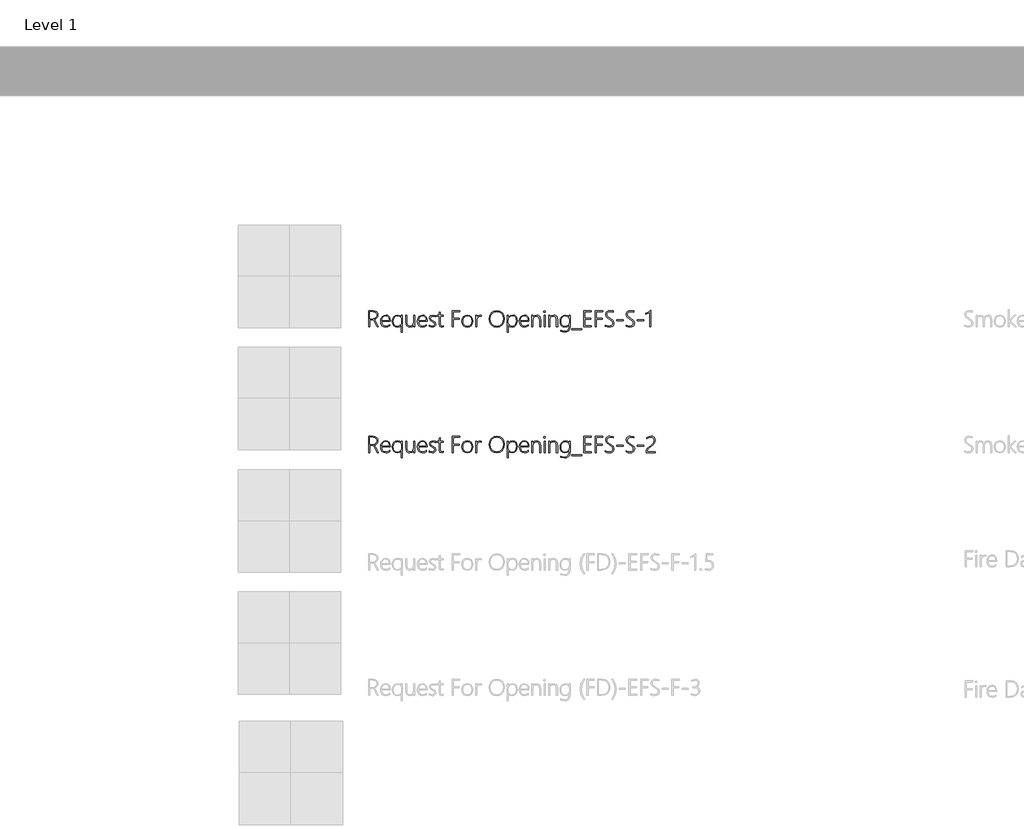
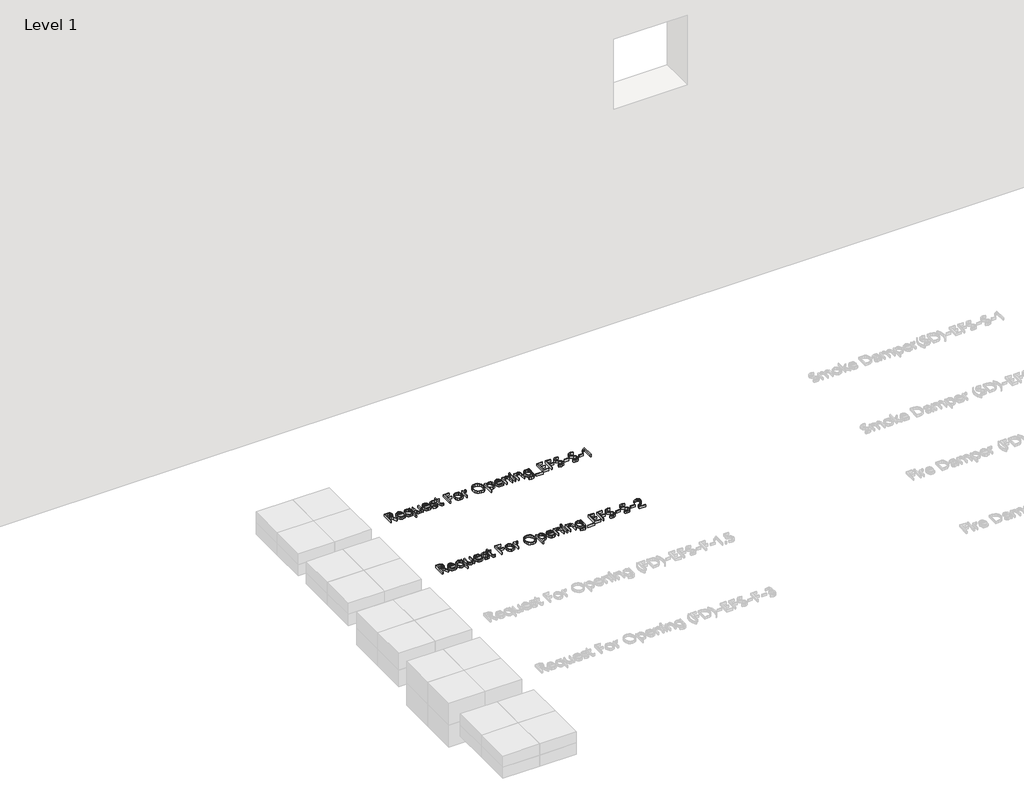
# One storey, part 12 of 13: 2 proxies.
"""IFC4 building model written with IfcOpenShell, lengths in millimetres."""

from ifc_helpers import new_model, si_unit, origin, origin_with_axes, place, context, project, spatial, polyline, outline, extrude, element, save

model = new_model("IFC4")

# Units and contexts
model_context = context("Model", 3, world=origin())
ifc_project = project(units=[si_unit("LENGTHUNIT", "METRE", prefix="MILLI")], contexts=[model_context])

# Site, building, storey
site = spatial("IfcSite", under=ifc_project)
building = spatial("IfcBuilding", under=site)
storey = spatial("IfcBuildingStorey", under=building, Name="Level 1", Elevation=0.0)

# Proxies
placement = place(None, origin())
element("IfcBuildingElementProxy", 1, Name="24\" Arial", ObjectType="24\" Arial", at=placement, inside=storey, context=model_context, shape_type="SweptSolid", body=[
    extrude(outline(polyline([(-15088.6743908, 9244.4686024), (-15102.0044774, 9273.7471854), (-15110.2316402, 9285.9317177), (-15120.5713837, 9289.0410794), (-15132.9790759, 9289.0410794), (-15132.9790759, 9244.4686024), (-15139.8821565, 9244.4686024), (-15139.8821565, 9344.4740064), (-15112.121061, 9344.4740064), (-15100.2973039, 9342.6850076), (-15091.307678, 9337.3180113), (-15085.6282578, 9329.0276198), (-15083.7351177, 9318.4684357), (-15085.2860792, 9308.5340994), (-15089.9389638, 9300.3924812), (-15097.3813475, 9294.4378304), (-15107.3008065, 9291.0643961), (-15095.7262447, 9276.3358406), (-15080.8786706, 9244.4686024), (-15088.6743908, 9244.4686024)]), holes=[polyline([(-15132.9790759, 9338.1362643), (-15132.9790759, 9295.3193121), (-15115.7511292, 9295.3193121), (-15105.4783337, 9296.818203), (-15097.5710334, 9301.3148756), (-15092.527619, 9308.4225194), (-15090.8464808, 9317.7543239), (-15092.3639684, 9326.2715946), (-15096.916431, 9332.7209167), (-15104.2955861, 9336.7824274), (-15114.293151, 9338.1362643), (-15132.9790759, 9338.1362643)])]), origin_with_axes(), (0.0, 0.0, 1.0), 20.0),
    extrude(outline(polyline([(-15059.7528637, 9279.9063995), (-15058.0531289, 9266.7845955), (-15052.9539245, 9256.8762946), (-15044.8941316, 9250.6501325), (-15034.3126315, 9248.5747451), (-15022.4405231, 9250.7914671), (-15010.8659614, 9257.4416331), (-15010.8659614, 9250.5980618), (-15022.6041738, 9244.6843237), (-15035.6218364, 9242.7130776), (-15048.1039153, 9245.1901528), (-15057.9378296, 9252.6213786), (-15064.3202036, 9264.5678736), (-15066.4476617, 9280.5907566), (-15064.223501, 9294.9845722), (-15057.551019, 9306.9236286), (-15047.3228555, 9314.9573861), (-15034.4316501, 9317.6353053), (-15022.6748411, 9315.2958453), (-15014.0050777, 9308.2774655), (-15008.6603974, 9297.2198909), (-15006.8788373, 9282.7628466), (-15006.8788373, 9279.9063995), (-15059.7528637, 9279.9063995)]), holes=[polyline([(-15013.5736352, 9285.7680671), (-15015.284528, 9296.717781), (-15019.5245667, 9304.9300665), (-15026.07803, 9310.0627449), (-15034.7291967, 9311.7736377), (-15043.8973506, 9310.0887803), (-15051.347173, 9305.0342078), (-15056.676976, 9296.8479577), (-15059.4850718, 9285.7680671), (-15013.5736352, 9285.7680671)])]), origin_with_axes(), (0.0, 0.0, 1.0), 20.0),
    extrude(outline(polyline([(-14938.2348423, 9211.6194605), (-14938.2348423, 9257.5904064), (-14948.946519, 9246.4324098), (-14964.3891863, 9242.7130776), (-14976.4695772, 9245.1715562), (-14985.9315583, 9252.5469919), (-14992.0461405, 9264.0955184), (-14994.0843345, 9279.0732691), (-14991.7671906, 9294.9957302), (-14984.8157587, 9307.2360525), (-14974.2863292, 9315.0354921), (-14961.2351926, 9317.6353053), (-14947.5629274, 9314.3027836), (-14938.5026342, 9304.3052187), (-14938.2348423, 9315.8797805), (-14931.8078363, 9315.8797805), (-14931.8078363, 9211.6194605), (-14938.2348423, 9211.6194605)]), holes=[polyline([(-14938.2348423, 9287.2855546), (-14939.7858038, 9297.0227663), (-14944.4386884, 9304.8705572), (-14951.8438788, 9310.0478676), (-14961.6517578, 9311.7736377), (-14971.8055347, 9309.6387411), (-14980.0698908, 9303.234051), (-14985.5596251, 9292.9910102), (-14987.3895366, 9279.341061), (-14985.7604691, 9266.5130843), (-14980.8732666, 9256.7721533), (-14973.3899702, 9250.6240972), (-14963.9726211, 9248.5747451), (-14952.9448011, 9250.4939205), (-14944.8552536, 9256.2514468), (-14939.8899451, 9264.7835948), (-14938.2348423, 9275.0266357), (-14938.2348423, 9287.2855546)])]), origin_with_axes(), (0.0, 0.0, 1.0), 20.0),
    extrude(outline(polyline([(-14861.7951271, 9244.4686024), (-14861.7951271, 9257.4416331), (-14871.5620934, 9246.3952165), (-14885.0930239, 9242.7130776), (-14896.1710549, 9244.7066396), (-14904.0839341, 9250.6873258), (-14908.8316616, 9260.6551361), (-14910.4142375, 9274.6100705), (-14910.4142375, 9315.8797805), (-14903.9277221, 9315.8797805), (-14903.9277221, 9276.1870673), (-14902.7338165, 9263.6789532), (-14899.1520996, 9255.1356471), (-14893.0040435, 9250.2149706), (-14884.1111202, 9248.5747451), (-14875.0917397, 9250.4046566), (-14867.9692185, 9255.8943909), (-14863.3386499, 9264.4414163), (-14861.7951271, 9275.4432009), (-14861.7951271, 9315.8797805), (-14855.3978757, 9315.8797805), (-14855.3978757, 9244.4686024), (-14861.7951271, 9244.4686024)])), origin_with_axes(), (0.0, 0.0, 1.0), 20.0),
    extrude(outline(polyline([(-14831.2370938, 9279.9063995), (-14829.537359, 9266.7845955), (-14824.4381545, 9256.8762946), (-14816.3783617, 9250.6501325), (-14805.7968616, 9248.5747451), (-14793.9247532, 9250.7914671), (-14782.3501914, 9257.4416331), (-14782.3501914, 9250.5980618), (-14794.0884038, 9244.6843237), (-14807.1060665, 9242.7130776), (-14819.5881453, 9245.1901528), (-14829.4220597, 9252.6213786), (-14835.8044337, 9264.5678736), (-14837.9318917, 9280.5907566), (-14835.7077311, 9294.9845722), (-14829.0352491, 9306.9236286), (-14818.8070856, 9314.9573861), (-14805.9158802, 9317.6353053), (-14794.1590711, 9315.2958453), (-14785.4893078, 9308.2774655), (-14780.1446274, 9297.2198909), (-14778.3630673, 9282.7628466), (-14778.3630673, 9279.9063995), (-14831.2370938, 9279.9063995)]), holes=[polyline([(-14785.0578653, 9285.7680671), (-14786.7687581, 9296.717781), (-14791.0087968, 9304.9300665), (-14797.5622601, 9310.0627449), (-14806.2134268, 9311.7736377), (-14815.3815806, 9310.0887803), (-14822.831403, 9305.0342078), (-14828.161206, 9296.8479577), (-14830.9693018, 9285.7680671), (-14785.0578653, 9285.7680671)])]), origin_with_axes(), (0.0, 0.0, 1.0), 20.0),
    extrude(outline(polyline([(-14764.1105863, 9247.5928414), (-14764.1105863, 9255.358807), (-14755.318085, 9250.3897792), (-14746.4065651, 9248.5747451), (-14733.798029, 9252.0114081), (-14729.5951836, 9262.3213969), (-14733.2847611, 9270.3997864), (-14745.2758881, 9277.3177443), (-14759.6771424, 9286.5565655), (-14763.8130398, 9298.1757593), (-14762.1504983, 9306.0570242), (-14757.1628738, 9312.2645896), (-14740.7531802, 9317.6353053), (-14724.9832117, 9313.8564638), (-14724.9832117, 9306.5963273), (-14741.4375373, 9311.7736377), (-14752.8038165, 9308.1138149), (-14757.1182418, 9298.5923245), (-14754.410568, 9290.3205297), (-14742.419441, 9283.0306386), (-14727.080915, 9273.7174307), (-14722.9003856, 9262.3213969), (-14724.4959792, 9254.551712), (-14729.2827597, 9248.2623212), (-14736.8739167, 9244.1003885), (-14746.8826396, 9242.7130776), (-14764.1105863, 9247.5928414)])), origin_with_axes(), (0.0, 0.0, 1.0), 20.0),
    extrude(outline(polyline([(-14676.9294397, 9245.4505061), (-14686.3616662, 9243.0701335), (-14698.2337745, 9247.8160014), (-14702.191144, 9262.053605), (-14702.191144, 9310.018113), (-14715.0154014, 9310.018113), (-14715.0154014, 9315.8797805), (-14702.191144, 9315.8797805), (-14702.191144, 9334.4169321), (-14698.977641, 9335.5476091), (-14695.764138, 9336.5890221), (-14695.764138, 9315.8797805), (-14676.9294397, 9315.8797805), (-14676.9294397, 9310.018113), (-14695.764138, 9310.018113), (-14695.764138, 9262.8867354), (-14693.4283973, 9252.1750587), (-14685.5285358, 9248.8722917), (-14676.9294397, 9251.4311922), (-14676.9294397, 9245.4505061)])), origin_with_axes(), (0.0, 0.0, 1.0), 20.0),
    extrude(outline(polyline([(-14615.0099974, 9338.1362643), (-14615.0099974, 9297.3426288), (-14578.0547127, 9297.3426288), (-14578.0547127, 9291.0643961), (-14615.0099974, 9291.0643961), (-14615.0099974, 9244.4686024), (-14621.9130779, 9244.4686024), (-14621.9130779, 9344.4740064), (-14575.1685109, 9344.4740064), (-14575.1685109, 9338.1362643), (-14615.0099974, 9338.1362643)])), origin_with_axes(), (0.0, 0.0, 1.0), 20.0),
    extrude(outline(polyline([(-14527.9776241, 9242.7130776), (-14541.9697518, 9245.2868555), (-14552.7037445, 9253.0081891), (-14559.5324384, 9264.8431041), (-14561.8086697, 9279.7576262), (-14559.4282971, 9295.6131394), (-14552.2871793, 9307.5931084), (-14541.2630787, 9315.1247561), (-14527.2337576, 9317.6353053), (-14513.5503345, 9315.1396334), (-14503.087853, 9307.6526177), (-14496.4488451, 9295.754474), (-14494.2358424, 9280.0254181), (-14496.4934771, 9264.9472454), (-14503.266381, 9253.0379438), (-14513.959461, 9245.2942941), (-14527.9776241, 9242.7130776)]), holes=[polyline([(-14527.5015495, 9311.7736377), (-14538.8380741, 9309.6461797), (-14547.615698, 9303.2638057), (-14553.2393283, 9293.0951515), (-14555.1138717, 9279.6088529), (-14553.2839603, 9266.9705622), (-14547.794226, 9257.0845772), (-14539.128182, 9250.7022031), (-14527.7693415, 9248.5747451), (-14516.3621496, 9250.6687291), (-14507.9081076, 9256.9506812), (-14502.6750072, 9266.9445268), (-14500.9306404, 9280.1741914), (-14502.6638492, 9293.6642093), (-14507.8634756, 9303.6059843), (-14516.2394117, 9309.7317244), (-14527.5015495, 9311.7736377)])]), origin_with_axes(), (0.0, 0.0, 1.0), 20.0),
    extrude(outline(polyline([(-14442.9983221, 9309.1849825), (-14450.5262505, 9311.4760912), (-14458.2736194, 9309.2965625), (-14464.6745901, 9302.7579765), (-14468.9704188, 9292.2099504), (-14470.4023617, 9278.0021014), (-14470.4023617, 9244.4686024), (-14476.6805945, 9244.4686024), (-14476.6805945, 9315.8797805), (-14470.4023617, 9315.8797805), (-14470.4023617, 9300.0503027), (-14462.3686042, 9312.7406641), (-14450.1096853, 9317.2782494), (-14442.9983221, 9316.0285538), (-14442.9983221, 9309.1849825)])), origin_with_axes(), (0.0, 0.0, 1.0), 20.0),
    extrude(outline(polyline([(-14346.5337224, 9242.7130776), (-14365.5729839, 9246.2352852), (-14380.320136, 9256.8019079), (-14389.7709591, 9272.9995996), (-14392.9212335, 9293.415014), (-14389.6854145, 9314.9573861), (-14379.9779574, 9331.739013), (-14364.6766248, 9342.5399537), (-14344.6591789, 9346.1402672), (-14326.3563452, 9342.6812883), (-14311.9141783, 9332.3043515), (-14302.5303032, 9316.311223), (-14299.4023448, 9296.0036693), (-14302.6084092, 9273.83273), (-14312.2266022, 9256.9506812), (-14327.2155109, 9246.2724785), (-14346.5337224, 9242.7130776)]), holes=[polyline([(-14345.8196106, 9339.8620345), (-14361.712317, 9336.7080408), (-14374.5179778, 9327.2460597), (-14382.9645812, 9312.6737161), (-14385.7801157, 9294.1886351), (-14383.1133545, 9275.6440448), (-14375.1130709, 9261.3097386), (-14362.6719047, 9252.1378654), (-14346.6824956, 9249.0805743), (-14330.0570807, 9252.1043914), (-14317.3146486, 9261.1758426), (-14309.2139431, 9275.6552028), (-14306.513708, 9294.9027469), (-14309.1544338, 9313.7634805), (-14317.0766114, 9327.9750488), (-14329.5438129, 9336.890288), (-14345.8196106, 9339.8620345)])]), origin_with_axes(), (0.0, 0.0, 1.0), 20.0),
    extrude(outline(polyline([(-14273.843094, 9257.1738412), (-14274.1108859, 9211.6194605), (-14280.5378919, 9211.6194605), (-14280.5378919, 9315.8797805), (-14274.1108859, 9315.8797805), (-14274.1108859, 9301.151225), (-14262.848748, 9313.3357573), (-14247.1234115, 9317.6353053), (-14235.0169852, 9315.2884067), (-14225.8934633, 9308.2477108), (-14220.1694111, 9297.1826976), (-14218.2613937, 9282.7628466), (-14220.448361, 9266.5428389), (-14227.009263, 9253.7669329), (-14237.1630399, 9245.4765414), (-14250.1286319, 9242.7130776), (-14264.0761276, 9246.3282685), (-14273.843094, 9257.1738412)]), holes=[polyline([(-14274.1108859, 9283.7447503), (-14274.1108859, 9274.7290891), (-14272.4185897, 9264.7464015), (-14267.3417013, 9256.2812014), (-14259.512507, 9250.5013592), (-14249.5632934, 9248.5747451), (-14239.6438345, 9250.9216437), (-14231.7848855, 9257.9623396), (-14226.6633651, 9268.8190703), (-14224.9561916, 9282.6140734), (-14226.5257498, 9294.6275163), (-14231.2344244, 9303.8886535), (-14238.5540701, 9309.8023917), (-14247.9565419, 9311.7736377), (-14259.0364325, 9309.6796537), (-14267.282192, 9303.3977017), (-14272.4037124, 9294.2964958), (-14274.1108859, 9283.7447503)])]), origin_with_axes(), (0.0, 0.0, 1.0), 20.0),
    extrude(outline(polyline([(-14199.0101303, 9279.9063995), (-14197.3103954, 9266.7845955), (-14192.211191, 9256.8762946), (-14184.1513981, 9250.6501325), (-14173.5698981, 9248.5747451), (-14161.6977897, 9250.7914671), (-14150.1232279, 9257.4416331), (-14150.1232279, 9250.5980618), (-14161.8614403, 9244.6843237), (-14174.879103, 9242.7130776), (-14187.3611818, 9245.1901528), (-14197.1950961, 9252.6213786), (-14203.5774702, 9264.5678736), (-14205.7049282, 9280.5907566), (-14203.4807675, 9294.9845722), (-14196.8082856, 9306.9236286), (-14186.5801221, 9314.9573861), (-14173.6889167, 9317.6353053), (-14161.9321076, 9315.2958453), (-14153.2623443, 9308.2774655), (-14147.9176639, 9297.2198909), (-14146.1361038, 9282.7628466), (-14146.1361038, 9279.9063995), (-14199.0101303, 9279.9063995)]), holes=[polyline([(-14152.8309017, 9285.7680671), (-14154.5417946, 9296.717781), (-14158.7818333, 9304.9300665), (-14165.3352966, 9310.0627449), (-14173.9864633, 9311.7736377), (-14183.1546171, 9310.0887803), (-14190.6044395, 9305.0342078), (-14195.9342425, 9296.8479577), (-14198.7423383, 9285.7680671), (-14152.8309017, 9285.7680671)])]), origin_with_axes(), (0.0, 0.0, 1.0), 20.0),
    extrude(outline(polyline([(-14079.6344442, 9244.4686024), (-14079.6344442, 9286.035859), (-14084.2761708, 9305.3391931), (-14090.078329, 9310.1650266), (-14098.2013505, 9311.7736377), (-14107.6001029, 9309.8804977), (-14115.146628, 9304.2010774), (-14120.1119364, 9295.732158), (-14121.7670393, 9285.4705205), (-14121.7670393, 9244.4686024), (-14128.1940453, 9244.4686024), (-14128.1940453, 9315.8797805), (-14121.7670393, 9315.8797805), (-14121.7670393, 9302.9067498), (-14111.4793664, 9313.9531664), (-14097.0706735, 9317.6353053), (-14086.8573873, 9315.7086912), (-14079.3666523, 9309.928849), (-14074.7695577, 9300.5710092), (-14073.2371928, 9287.9104024), (-14073.2371928, 9244.4686024), (-14079.6344442, 9244.4686024)])), origin_with_axes(), (0.0, 0.0, 1.0), 20.0),
    extrude(outline(polyline([(-14048.8681283, 9333.8813483), (-14052.5577058, 9335.4137132), (-14054.1644573, 9339.3264506), (-14052.5279512, 9343.0457828), (-14048.8681283, 9344.4740064), (-14045.0595321, 9343.0755375), (-14043.4230259, 9339.3264506), (-14045.0297775, 9335.4880998), (-14048.8681283, 9333.8813483)])), origin_with_axes(), (0.0, 0.0, 1.0), 20.0),
    extrude(outline(polyline([(-14052.022122, 9244.4686024), (-14052.022122, 9315.8797805), (-14045.595116, 9315.8797805), (-14045.595116, 9244.4686024), (-14052.022122, 9244.4686024)])), origin_with_axes(), (0.0, 0.0, 1.0), 20.0),
    extrude(outline(polyline([(-13974.8980496, 9244.4686024), (-13974.8980496, 9286.035859), (-13979.5397762, 9305.3391931), (-13985.3419344, 9310.1650266), (-13993.4649559, 9311.7736377), (-14002.8637084, 9309.8804977), (-14010.4102334, 9304.2010774), (-14015.3755419, 9295.732158), (-14017.0306447, 9285.4705205), (-14017.0306447, 9244.4686024), (-14023.4576507, 9244.4686024), (-14023.4576507, 9315.8797805), (-14017.0306447, 9315.8797805), (-14017.0306447, 9302.9067498), (-14006.7429719, 9313.9531664), (-13992.3342789, 9317.6353053), (-13982.1209927, 9315.7086912), (-13974.6302577, 9309.928849), (-13970.0331631, 9300.5710092), (-13968.5007983, 9287.9104024), (-13968.5007983, 9244.4686024), (-13974.8980496, 9244.4686024)])), origin_with_axes(), (0.0, 0.0, 1.0), 20.0),
    extrude(outline(polyline([(-13890.1567849, 9249.7649314), (-13892.3549103, 9232.3212634), (-13898.9492862, 9220.2780658), (-13910.1779501, 9213.2708439), (-13926.2789392, 9210.9351033), (-13947.5535193, 9216.350451), (-13947.5535193, 9223.045249), (-13926.1301659, 9216.7967709), (-13913.2036269, 9218.7494203), (-13903.9703847, 9224.6073685), (-13898.4304394, 9234.3706155), (-13896.583791, 9248.0391613), (-13896.583791, 9257.2928598), (-13907.5111889, 9246.3580231), (-13922.5893617, 9242.7130776), (-13934.5581727, 9245.1046082), (-13944.1019791, 9252.2792), (-13950.3504571, 9263.7235851), (-13952.4332832, 9278.9244958), (-13950.1830872, 9294.4378304), (-13943.4324993, 9306.8194873), (-13933.0072111, 9314.9313508), (-13919.7329145, 9317.6353053), (-13906.1275974, 9314.3697316), (-13896.8515829, 9304.5730106), (-13896.583791, 9315.8797805), (-13890.1567849, 9315.8797805), (-13890.1567849, 9249.7649314)]), holes=[polyline([(-13896.583791, 9288.4757409), (-13898.1793845, 9297.3203128), (-13902.966165, 9304.8705572), (-13910.3118461, 9310.0478676), (-13919.5841412, 9311.7736377), (-13930.217712, 9309.5569158), (-13938.5527354, 9302.9067498), (-13943.9420478, 9292.619077), (-13945.7384852, 9279.4898343), (-13944.0908211, 9266.4572943), (-13939.1478286, 9256.6977666), (-13931.5046009, 9250.6055005), (-13921.7562312, 9248.5747451), (-13911.4127684, 9250.4418499), (-13903.4124849, 9256.0431642), (-13898.2909644, 9264.3447136), (-13896.583791, 9274.3125239), (-13896.583791, 9288.4757409)])]), origin_with_axes(), (0.0, 0.0, 1.0), 20.0),
    extrude(outline(polyline([(-13878.7309964, 9225.7826774), (-13878.7309964, 9232.0609102), (-13819.4597186, 9232.0609102), (-13819.4597186, 9225.7826774), (-13878.7309964, 9225.7826774)])), origin_with_axes(), (0.0, 0.0, 1.0), 20.0),
    extrude(outline(polyline([(-13806.8734985, 9244.4686024), (-13806.8734985, 9344.4740064), (-13760.1289315, 9344.4740064), (-13760.1289315, 9338.1362643), (-13799.9704179, 9338.1362643), (-13799.9704179, 9298.026986), (-13763.0151332, 9298.026986), (-13763.0151332, 9291.7487532), (-13799.9704179, 9291.7487532), (-13799.9704179, 9250.7468351), (-13757.8378228, 9250.7468351), (-13757.8378228, 9244.4686024), (-13806.8734985, 9244.4686024)])), origin_with_axes(), (0.0, 0.0, 1.0), 20.0),
    extrude(outline(polyline([(-13727.6070908, 9338.1362643), (-13727.6070908, 9297.3426288), (-13690.6518061, 9297.3426288), (-13690.6518061, 9291.0643961), (-13727.6070908, 9291.0643961), (-13727.6070908, 9244.4686024), (-13734.5101713, 9244.4686024), (-13734.5101713, 9344.4740064), (-13687.7656043, 9344.4740064), (-13687.7656043, 9338.1362643), (-13727.6070908, 9338.1362643)])), origin_with_axes(), (0.0, 0.0, 1.0), 20.0),
    extrude(outline(polyline([(-13670.9839775, 9248.0391613), (-13670.9839775, 9255.8943909), (-13660.1755981, 9250.7840284), (-13649.2333228, 9249.0805743), (-13631.4400376, 9253.9157062), (-13626.887575, 9259.7215837), (-13625.3700874, 9267.4689527), (-13629.4613529, 9279.7129942), (-13647.1504968, 9292.1653184), (-13666.3868829, 9306.9980152), (-13670.418639, 9320.7595443), (-13668.3618483, 9330.552546), (-13662.1914762, 9338.7462348), (-13652.5918798, 9344.2917591), (-13640.2474162, 9346.1402672), (-13622.3946217, 9343.1350468), (-13622.3946217, 9335.904665), (-13641.1400559, 9339.8620345), (-13657.2819577, 9334.6996014), (-13661.7563143, 9328.8416532), (-13663.2477665, 9321.5926747), (-13659.1713784, 9309.3932651), (-13641.5566211, 9297.0450823), (-13622.9004509, 9282.9264973), (-13618.2587243, 9268.7484029), (-13620.2560057, 9258.2970795), (-13626.2478498, 9249.973214), (-13635.8846396, 9244.5281117), (-13648.8167576, 9242.7130776), (-13660.7037433, 9244.3198291), (-13670.9839775, 9248.0391613)])), origin_with_axes(), (0.0, 0.0, 1.0), 20.0),
    extrude(outline(polyline([(-13600.1083832, 9283.1794118), (-13600.1083832, 9289.4576446), (-13561.9629122, 9289.4576446), (-13561.9629122, 9283.1794118), (-13600.1083832, 9283.1794118)])), origin_with_axes(), (0.0, 0.0, 1.0), 20.0),
    extrude(outline(polyline([(-13543.3960059, 9248.0391613), (-13543.3960059, 9255.8943909), (-13532.5876266, 9250.7840284), (-13521.6453512, 9249.0805743), (-13503.852066, 9253.9157062), (-13499.2996034, 9259.7215837), (-13497.7821159, 9267.4689527), (-13501.8733813, 9279.7129942), (-13519.5625252, 9292.1653184), (-13538.7989113, 9306.9980152), (-13542.8306674, 9320.7595443), (-13540.7738767, 9330.552546), (-13534.6035046, 9338.7462348), (-13525.0039082, 9344.2917591), (-13512.6594447, 9346.1402672), (-13494.8066501, 9343.1350468), (-13494.8066501, 9335.904665), (-13513.5520844, 9339.8620345), (-13529.6939861, 9334.6996014), (-13534.1683427, 9328.8416532), (-13535.6597949, 9321.5926747), (-13531.5834069, 9309.3932651), (-13513.9686496, 9297.0450823), (-13495.3124793, 9282.9264973), (-13490.6707527, 9268.7484029), (-13492.6680341, 9258.2970795), (-13498.6598783, 9249.973214), (-13508.296668, 9244.5281117), (-13521.228786, 9242.7130776), (-13533.1157717, 9244.3198291), (-13543.3960059, 9248.0391613)])), origin_with_axes(), (0.0, 0.0, 1.0), 20.0),
    extrude(outline(polyline([(-13472.5204116, 9283.1794118), (-13472.5204116, 9289.4576446), (-13434.3749407, 9289.4576446), (-13434.3749407, 9283.1794118), (-13472.5204116, 9283.1794118)])), origin_with_axes(), (0.0, 0.0, 1.0), 20.0),
    extrude(outline(polyline([(-13388.82056, 9346.7056057), (-13388.82056, 9244.4686024), (-13395.247566, 9244.4686024), (-13395.247566, 9336.5890221), (-13406.2270346, 9328.6296512), (-13419.7058945, 9322.7233517), (-13419.7058945, 9328.5850193), (-13411.5679957, 9331.8877863), (-13404.3524912, 9335.9641743), (-13397.6576933, 9340.8736928), (-13391.0521593, 9346.7056057), (-13388.82056, 9346.7056057)])), origin_with_axes(), (0.0, 0.0, 1.0), 20.0),
])
element("IfcBuildingElementProxy", 2, Name="24\" Arial", ObjectType="24\" Arial", at=placement, inside=storey, context=model_context, shape_type="SweptSolid", body=[
    extrude(outline(polyline([(-15088.6743908, 8464.4686024), (-15102.0044774, 8493.7471854), (-15110.2316402, 8505.9317177), (-15120.5713837, 8509.0410794), (-15132.9790759, 8509.0410794), (-15132.9790759, 8464.4686024), (-15139.8821565, 8464.4686024), (-15139.8821565, 8564.4740064), (-15112.121061, 8564.4740064), (-15100.2973039, 8562.6850076), (-15091.307678, 8557.3180113), (-15085.6282578, 8549.0276198), (-15083.7351177, 8538.4684357), (-15085.2860792, 8528.5340994), (-15089.9389638, 8520.3924812), (-15097.3813475, 8514.4378304), (-15107.3008065, 8511.0643961), (-15095.7262447, 8496.3358406), (-15080.8786706, 8464.4686024), (-15088.6743908, 8464.4686024)]), holes=[polyline([(-15132.9790759, 8558.1362643), (-15132.9790759, 8515.3193121), (-15115.7511292, 8515.3193121), (-15105.4783337, 8516.818203), (-15097.5710334, 8521.3148756), (-15092.527619, 8528.4225194), (-15090.8464808, 8537.7543239), (-15092.3639684, 8546.2715946), (-15096.916431, 8552.7209167), (-15104.2955861, 8556.7824274), (-15114.293151, 8558.1362643), (-15132.9790759, 8558.1362643)])]), origin_with_axes(), (0.0, 0.0, 1.0), 20.0),
    extrude(outline(polyline([(-15059.7528637, 8499.9063995), (-15058.0531289, 8486.7845955), (-15052.9539245, 8476.8762946), (-15044.8941316, 8470.6501325), (-15034.3126315, 8468.5747451), (-15022.4405231, 8470.7914671), (-15010.8659614, 8477.4416331), (-15010.8659614, 8470.5980618), (-15022.6041738, 8464.6843237), (-15035.6218364, 8462.7130776), (-15048.1039153, 8465.1901528), (-15057.9378296, 8472.6213786), (-15064.3202036, 8484.5678736), (-15066.4476617, 8500.5907566), (-15064.223501, 8514.9845722), (-15057.551019, 8526.9236286), (-15047.3228555, 8534.9573861), (-15034.4316501, 8537.6353053), (-15022.6748411, 8535.2958453), (-15014.0050777, 8528.2774655), (-15008.6603974, 8517.2198909), (-15006.8788373, 8502.7628466), (-15006.8788373, 8499.9063995), (-15059.7528637, 8499.9063995)]), holes=[polyline([(-15013.5736352, 8505.7680671), (-15015.284528, 8516.717781), (-15019.5245667, 8524.9300665), (-15026.07803, 8530.0627449), (-15034.7291967, 8531.7736377), (-15043.8973506, 8530.0887803), (-15051.347173, 8525.0342078), (-15056.676976, 8516.8479577), (-15059.4850718, 8505.7680671), (-15013.5736352, 8505.7680671)])]), origin_with_axes(), (0.0, 0.0, 1.0), 20.0),
    extrude(outline(polyline([(-14938.2348423, 8431.6194605), (-14938.2348423, 8477.5904064), (-14948.946519, 8466.4324098), (-14964.3891863, 8462.7130776), (-14976.4695772, 8465.1715562), (-14985.9315583, 8472.5469919), (-14992.0461405, 8484.0955184), (-14994.0843345, 8499.0732691), (-14991.7671906, 8514.9957302), (-14984.8157587, 8527.2360525), (-14974.2863292, 8535.0354921), (-14961.2351926, 8537.6353053), (-14947.5629274, 8534.3027836), (-14938.5026342, 8524.3052187), (-14938.2348423, 8535.8797805), (-14931.8078363, 8535.8797805), (-14931.8078363, 8431.6194605), (-14938.2348423, 8431.6194605)]), holes=[polyline([(-14938.2348423, 8507.2855546), (-14939.7858038, 8517.0227663), (-14944.4386884, 8524.8705572), (-14951.8438788, 8530.0478676), (-14961.6517578, 8531.7736377), (-14971.8055347, 8529.6387411), (-14980.0698908, 8523.234051), (-14985.5596251, 8512.9910102), (-14987.3895366, 8499.341061), (-14985.7604691, 8486.5130843), (-14980.8732666, 8476.7721533), (-14973.3899702, 8470.6240972), (-14963.9726211, 8468.5747451), (-14952.9448011, 8470.4939205), (-14944.8552536, 8476.2514468), (-14939.8899451, 8484.7835948), (-14938.2348423, 8495.0266357), (-14938.2348423, 8507.2855546)])]), origin_with_axes(), (0.0, 0.0, 1.0), 20.0),
    extrude(outline(polyline([(-14861.7951271, 8464.4686024), (-14861.7951271, 8477.4416331), (-14871.5620934, 8466.3952165), (-14885.0930239, 8462.7130776), (-14896.1710549, 8464.7066396), (-14904.0839341, 8470.6873258), (-14908.8316616, 8480.6551361), (-14910.4142375, 8494.6100705), (-14910.4142375, 8535.8797805), (-14903.9277221, 8535.8797805), (-14903.9277221, 8496.1870673), (-14902.7338165, 8483.6789532), (-14899.1520996, 8475.1356471), (-14893.0040435, 8470.2149706), (-14884.1111202, 8468.5747451), (-14875.0917397, 8470.4046566), (-14867.9692185, 8475.8943909), (-14863.3386499, 8484.4414163), (-14861.7951271, 8495.4432009), (-14861.7951271, 8535.8797805), (-14855.3978757, 8535.8797805), (-14855.3978757, 8464.4686024), (-14861.7951271, 8464.4686024)])), origin_with_axes(), (0.0, 0.0, 1.0), 20.0),
    extrude(outline(polyline([(-14831.2370938, 8499.9063995), (-14829.537359, 8486.7845955), (-14824.4381545, 8476.8762946), (-14816.3783617, 8470.6501325), (-14805.7968616, 8468.5747451), (-14793.9247532, 8470.7914671), (-14782.3501914, 8477.4416331), (-14782.3501914, 8470.5980618), (-14794.0884038, 8464.6843237), (-14807.1060665, 8462.7130776), (-14819.5881453, 8465.1901528), (-14829.4220597, 8472.6213786), (-14835.8044337, 8484.5678736), (-14837.9318917, 8500.5907566), (-14835.7077311, 8514.9845722), (-14829.0352491, 8526.9236286), (-14818.8070856, 8534.9573861), (-14805.9158802, 8537.6353053), (-14794.1590711, 8535.2958453), (-14785.4893078, 8528.2774655), (-14780.1446274, 8517.2198909), (-14778.3630673, 8502.7628466), (-14778.3630673, 8499.9063995), (-14831.2370938, 8499.9063995)]), holes=[polyline([(-14785.0578653, 8505.7680671), (-14786.7687581, 8516.717781), (-14791.0087968, 8524.9300665), (-14797.5622601, 8530.0627449), (-14806.2134268, 8531.7736377), (-14815.3815806, 8530.0887803), (-14822.831403, 8525.0342078), (-14828.161206, 8516.8479577), (-14830.9693018, 8505.7680671), (-14785.0578653, 8505.7680671)])]), origin_with_axes(), (0.0, 0.0, 1.0), 20.0),
    extrude(outline(polyline([(-14764.1105863, 8467.5928414), (-14764.1105863, 8475.358807), (-14755.318085, 8470.3897792), (-14746.4065651, 8468.5747451), (-14733.798029, 8472.0114081), (-14729.5951836, 8482.3213969), (-14733.2847611, 8490.3997864), (-14745.2758881, 8497.3177443), (-14759.6771424, 8506.5565655), (-14763.8130398, 8518.1757593), (-14762.1504983, 8526.0570242), (-14757.1628738, 8532.2645896), (-14740.7531802, 8537.6353053), (-14724.9832117, 8533.8564638), (-14724.9832117, 8526.5963273), (-14741.4375373, 8531.7736377), (-14752.8038165, 8528.1138149), (-14757.1182418, 8518.5923245), (-14754.410568, 8510.3205297), (-14742.419441, 8503.0306386), (-14727.080915, 8493.7174307), (-14722.9003856, 8482.3213969), (-14724.4959792, 8474.551712), (-14729.2827597, 8468.2623212), (-14736.8739167, 8464.1003885), (-14746.8826396, 8462.7130776), (-14764.1105863, 8467.5928414)])), origin_with_axes(), (0.0, 0.0, 1.0), 20.0),
    extrude(outline(polyline([(-14676.9294397, 8465.4505061), (-14686.3616662, 8463.0701335), (-14698.2337745, 8467.8160014), (-14702.191144, 8482.053605), (-14702.191144, 8530.018113), (-14715.0154014, 8530.018113), (-14715.0154014, 8535.8797805), (-14702.191144, 8535.8797805), (-14702.191144, 8554.4169321), (-14698.977641, 8555.5476091), (-14695.764138, 8556.5890221), (-14695.764138, 8535.8797805), (-14676.9294397, 8535.8797805), (-14676.9294397, 8530.018113), (-14695.764138, 8530.018113), (-14695.764138, 8482.8867354), (-14693.4283973, 8472.1750587), (-14685.5285358, 8468.8722917), (-14676.9294397, 8471.4311922), (-14676.9294397, 8465.4505061)])), origin_with_axes(), (0.0, 0.0, 1.0), 20.0),
    extrude(outline(polyline([(-14615.0099974, 8558.1362643), (-14615.0099974, 8517.3426288), (-14578.0547127, 8517.3426288), (-14578.0547127, 8511.0643961), (-14615.0099974, 8511.0643961), (-14615.0099974, 8464.4686024), (-14621.9130779, 8464.4686024), (-14621.9130779, 8564.4740064), (-14575.1685109, 8564.4740064), (-14575.1685109, 8558.1362643), (-14615.0099974, 8558.1362643)])), origin_with_axes(), (0.0, 0.0, 1.0), 20.0),
    extrude(outline(polyline([(-14527.9776241, 8462.7130776), (-14541.9697518, 8465.2868555), (-14552.7037445, 8473.0081891), (-14559.5324384, 8484.8431041), (-14561.8086697, 8499.7576262), (-14559.4282971, 8515.6131394), (-14552.2871793, 8527.5931084), (-14541.2630787, 8535.1247561), (-14527.2337576, 8537.6353053), (-14513.5503345, 8535.1396334), (-14503.087853, 8527.6526177), (-14496.4488451, 8515.754474), (-14494.2358424, 8500.0254181), (-14496.4934771, 8484.9472454), (-14503.266381, 8473.0379438), (-14513.959461, 8465.2942941), (-14527.9776241, 8462.7130776)]), holes=[polyline([(-14527.5015495, 8531.7736377), (-14538.8380741, 8529.6461797), (-14547.615698, 8523.2638057), (-14553.2393283, 8513.0951515), (-14555.1138717, 8499.6088529), (-14553.2839603, 8486.9705622), (-14547.794226, 8477.0845772), (-14539.128182, 8470.7022031), (-14527.7693415, 8468.5747451), (-14516.3621496, 8470.6687291), (-14507.9081076, 8476.9506812), (-14502.6750072, 8486.9445268), (-14500.9306404, 8500.1741914), (-14502.6638492, 8513.6642093), (-14507.8634756, 8523.6059843), (-14516.2394117, 8529.7317244), (-14527.5015495, 8531.7736377)])]), origin_with_axes(), (0.0, 0.0, 1.0), 20.0),
    extrude(outline(polyline([(-14442.9983221, 8529.1849825), (-14450.5262505, 8531.4760912), (-14458.2736194, 8529.2965625), (-14464.6745901, 8522.7579765), (-14468.9704188, 8512.2099504), (-14470.4023617, 8498.0021014), (-14470.4023617, 8464.4686024), (-14476.6805945, 8464.4686024), (-14476.6805945, 8535.8797805), (-14470.4023617, 8535.8797805), (-14470.4023617, 8520.0503027), (-14462.3686042, 8532.7406641), (-14450.1096853, 8537.2782494), (-14442.9983221, 8536.0285538), (-14442.9983221, 8529.1849825)])), origin_with_axes(), (0.0, 0.0, 1.0), 20.0),
    extrude(outline(polyline([(-14346.5337224, 8462.7130776), (-14365.5729839, 8466.2352852), (-14380.320136, 8476.8019079), (-14389.7709591, 8492.9995996), (-14392.9212335, 8513.415014), (-14389.6854145, 8534.9573861), (-14379.9779574, 8551.739013), (-14364.6766248, 8562.5399537), (-14344.6591789, 8566.1402672), (-14326.3563452, 8562.6812883), (-14311.9141783, 8552.3043515), (-14302.5303032, 8536.311223), (-14299.4023448, 8516.0036693), (-14302.6084092, 8493.83273), (-14312.2266022, 8476.9506812), (-14327.2155109, 8466.2724785), (-14346.5337224, 8462.7130776)]), holes=[polyline([(-14345.8196106, 8559.8620345), (-14361.712317, 8556.7080408), (-14374.5179778, 8547.2460597), (-14382.9645812, 8532.6737161), (-14385.7801157, 8514.1886351), (-14383.1133545, 8495.6440448), (-14375.1130709, 8481.3097386), (-14362.6719047, 8472.1378654), (-14346.6824956, 8469.0805743), (-14330.0570807, 8472.1043914), (-14317.3146486, 8481.1758426), (-14309.2139431, 8495.6552028), (-14306.513708, 8514.9027469), (-14309.1544338, 8533.7634805), (-14317.0766114, 8547.9750488), (-14329.5438129, 8556.890288), (-14345.8196106, 8559.8620345)])]), origin_with_axes(), (0.0, 0.0, 1.0), 20.0),
    extrude(outline(polyline([(-14273.843094, 8477.1738412), (-14274.1108859, 8431.6194605), (-14280.5378919, 8431.6194605), (-14280.5378919, 8535.8797805), (-14274.1108859, 8535.8797805), (-14274.1108859, 8521.151225), (-14262.848748, 8533.3357573), (-14247.1234115, 8537.6353053), (-14235.0169852, 8535.2884067), (-14225.8934633, 8528.2477108), (-14220.1694111, 8517.1826976), (-14218.2613937, 8502.7628466), (-14220.448361, 8486.5428389), (-14227.009263, 8473.7669329), (-14237.1630399, 8465.4765414), (-14250.1286319, 8462.7130776), (-14264.0761276, 8466.3282685), (-14273.843094, 8477.1738412)]), holes=[polyline([(-14274.1108859, 8503.7447503), (-14274.1108859, 8494.7290891), (-14272.4185897, 8484.7464015), (-14267.3417013, 8476.2812014), (-14259.512507, 8470.5013592), (-14249.5632934, 8468.5747451), (-14239.6438345, 8470.9216437), (-14231.7848855, 8477.9623396), (-14226.6633651, 8488.8190703), (-14224.9561916, 8502.6140734), (-14226.5257498, 8514.6275163), (-14231.2344244, 8523.8886535), (-14238.5540701, 8529.8023917), (-14247.9565419, 8531.7736377), (-14259.0364325, 8529.6796537), (-14267.282192, 8523.3977017), (-14272.4037124, 8514.2964958), (-14274.1108859, 8503.7447503)])]), origin_with_axes(), (0.0, 0.0, 1.0), 20.0),
    extrude(outline(polyline([(-14199.0101303, 8499.9063995), (-14197.3103954, 8486.7845955), (-14192.211191, 8476.8762946), (-14184.1513981, 8470.6501325), (-14173.5698981, 8468.5747451), (-14161.6977897, 8470.7914671), (-14150.1232279, 8477.4416331), (-14150.1232279, 8470.5980618), (-14161.8614403, 8464.6843237), (-14174.879103, 8462.7130776), (-14187.3611818, 8465.1901528), (-14197.1950961, 8472.6213786), (-14203.5774702, 8484.5678736), (-14205.7049282, 8500.5907566), (-14203.4807675, 8514.9845722), (-14196.8082856, 8526.9236286), (-14186.5801221, 8534.9573861), (-14173.6889167, 8537.6353053), (-14161.9321076, 8535.2958453), (-14153.2623443, 8528.2774655), (-14147.9176639, 8517.2198909), (-14146.1361038, 8502.7628466), (-14146.1361038, 8499.9063995), (-14199.0101303, 8499.9063995)]), holes=[polyline([(-14152.8309017, 8505.7680671), (-14154.5417946, 8516.717781), (-14158.7818333, 8524.9300665), (-14165.3352966, 8530.0627449), (-14173.9864633, 8531.7736377), (-14183.1546171, 8530.0887803), (-14190.6044395, 8525.0342078), (-14195.9342425, 8516.8479577), (-14198.7423383, 8505.7680671), (-14152.8309017, 8505.7680671)])]), origin_with_axes(), (0.0, 0.0, 1.0), 20.0),
    extrude(outline(polyline([(-14079.6344442, 8464.4686024), (-14079.6344442, 8506.035859), (-14084.2761708, 8525.3391931), (-14090.078329, 8530.1650266), (-14098.2013505, 8531.7736377), (-14107.6001029, 8529.8804977), (-14115.146628, 8524.2010774), (-14120.1119364, 8515.732158), (-14121.7670393, 8505.4705205), (-14121.7670393, 8464.4686024), (-14128.1940453, 8464.4686024), (-14128.1940453, 8535.8797805), (-14121.7670393, 8535.8797805), (-14121.7670393, 8522.9067498), (-14111.4793664, 8533.9531664), (-14097.0706735, 8537.6353053), (-14086.8573873, 8535.7086912), (-14079.3666523, 8529.928849), (-14074.7695577, 8520.5710092), (-14073.2371928, 8507.9104024), (-14073.2371928, 8464.4686024), (-14079.6344442, 8464.4686024)])), origin_with_axes(), (0.0, 0.0, 1.0), 20.0),
    extrude(outline(polyline([(-14048.8681283, 8553.8813483), (-14052.5577058, 8555.4137132), (-14054.1644573, 8559.3264506), (-14052.5279512, 8563.0457828), (-14048.8681283, 8564.4740064), (-14045.0595321, 8563.0755375), (-14043.4230259, 8559.3264506), (-14045.0297775, 8555.4880998), (-14048.8681283, 8553.8813483)])), origin_with_axes(), (0.0, 0.0, 1.0), 20.0),
    extrude(outline(polyline([(-14052.022122, 8464.4686024), (-14052.022122, 8535.8797805), (-14045.595116, 8535.8797805), (-14045.595116, 8464.4686024), (-14052.022122, 8464.4686024)])), origin_with_axes(), (0.0, 0.0, 1.0), 20.0),
    extrude(outline(polyline([(-13974.8980496, 8464.4686024), (-13974.8980496, 8506.035859), (-13979.5397762, 8525.3391931), (-13985.3419344, 8530.1650266), (-13993.4649559, 8531.7736377), (-14002.8637084, 8529.8804977), (-14010.4102334, 8524.2010774), (-14015.3755419, 8515.732158), (-14017.0306447, 8505.4705205), (-14017.0306447, 8464.4686024), (-14023.4576507, 8464.4686024), (-14023.4576507, 8535.8797805), (-14017.0306447, 8535.8797805), (-14017.0306447, 8522.9067498), (-14006.7429719, 8533.9531664), (-13992.3342789, 8537.6353053), (-13982.1209927, 8535.7086912), (-13974.6302577, 8529.928849), (-13970.0331631, 8520.5710092), (-13968.5007983, 8507.9104024), (-13968.5007983, 8464.4686024), (-13974.8980496, 8464.4686024)])), origin_with_axes(), (0.0, 0.0, 1.0), 20.0),
    extrude(outline(polyline([(-13890.1567849, 8469.7649314), (-13892.3549103, 8452.3212634), (-13898.9492862, 8440.2780658), (-13910.1779501, 8433.2708439), (-13926.2789392, 8430.9351033), (-13947.5535193, 8436.350451), (-13947.5535193, 8443.045249), (-13926.1301659, 8436.7967709), (-13913.2036269, 8438.7494203), (-13903.9703847, 8444.6073685), (-13898.4304394, 8454.3706155), (-13896.583791, 8468.0391613), (-13896.583791, 8477.2928598), (-13907.5111889, 8466.3580231), (-13922.5893617, 8462.7130776), (-13934.5581727, 8465.1046082), (-13944.1019791, 8472.2792), (-13950.3504571, 8483.7235851), (-13952.4332832, 8498.9244958), (-13950.1830872, 8514.4378304), (-13943.4324993, 8526.8194873), (-13933.0072111, 8534.9313508), (-13919.7329145, 8537.6353053), (-13906.1275974, 8534.3697316), (-13896.8515829, 8524.5730106), (-13896.583791, 8535.8797805), (-13890.1567849, 8535.8797805), (-13890.1567849, 8469.7649314)]), holes=[polyline([(-13896.583791, 8508.4757409), (-13898.1793845, 8517.3203128), (-13902.966165, 8524.8705572), (-13910.3118461, 8530.0478676), (-13919.5841412, 8531.7736377), (-13930.217712, 8529.5569158), (-13938.5527354, 8522.9067498), (-13943.9420478, 8512.619077), (-13945.7384852, 8499.4898343), (-13944.0908211, 8486.4572943), (-13939.1478286, 8476.6977666), (-13931.5046009, 8470.6055005), (-13921.7562312, 8468.5747451), (-13911.4127684, 8470.4418499), (-13903.4124849, 8476.0431642), (-13898.2909644, 8484.3447136), (-13896.583791, 8494.3125239), (-13896.583791, 8508.4757409)])]), origin_with_axes(), (0.0, 0.0, 1.0), 20.0),
    extrude(outline(polyline([(-13878.7309964, 8445.7826774), (-13878.7309964, 8452.0609102), (-13819.4597186, 8452.0609102), (-13819.4597186, 8445.7826774), (-13878.7309964, 8445.7826774)])), origin_with_axes(), (0.0, 0.0, 1.0), 20.0),
    extrude(outline(polyline([(-13806.8734985, 8464.4686024), (-13806.8734985, 8564.4740064), (-13760.1289315, 8564.4740064), (-13760.1289315, 8558.1362643), (-13799.9704179, 8558.1362643), (-13799.9704179, 8518.026986), (-13763.0151332, 8518.026986), (-13763.0151332, 8511.7487532), (-13799.9704179, 8511.7487532), (-13799.9704179, 8470.7468351), (-13757.8378228, 8470.7468351), (-13757.8378228, 8464.4686024), (-13806.8734985, 8464.4686024)])), origin_with_axes(), (0.0, 0.0, 1.0), 20.0),
    extrude(outline(polyline([(-13727.6070908, 8558.1362643), (-13727.6070908, 8517.3426288), (-13690.6518061, 8517.3426288), (-13690.6518061, 8511.0643961), (-13727.6070908, 8511.0643961), (-13727.6070908, 8464.4686024), (-13734.5101713, 8464.4686024), (-13734.5101713, 8564.4740064), (-13687.7656043, 8564.4740064), (-13687.7656043, 8558.1362643), (-13727.6070908, 8558.1362643)])), origin_with_axes(), (0.0, 0.0, 1.0), 20.0),
    extrude(outline(polyline([(-13670.9839775, 8468.0391613), (-13670.9839775, 8475.8943909), (-13660.1755981, 8470.7840284), (-13649.2333228, 8469.0805743), (-13631.4400376, 8473.9157062), (-13626.887575, 8479.7215837), (-13625.3700874, 8487.4689527), (-13629.4613529, 8499.7129942), (-13647.1504968, 8512.1653184), (-13666.3868829, 8526.9980152), (-13670.418639, 8540.7595443), (-13668.3618483, 8550.552546), (-13662.1914762, 8558.7462348), (-13652.5918798, 8564.2917591), (-13640.2474162, 8566.1402672), (-13622.3946217, 8563.1350468), (-13622.3946217, 8555.904665), (-13641.1400559, 8559.8620345), (-13657.2819577, 8554.6996014), (-13661.7563143, 8548.8416532), (-13663.2477665, 8541.5926747), (-13659.1713784, 8529.3932651), (-13641.5566211, 8517.0450823), (-13622.9004509, 8502.9264973), (-13618.2587243, 8488.7484029), (-13620.2560057, 8478.2970795), (-13626.2478498, 8469.973214), (-13635.8846396, 8464.5281117), (-13648.8167576, 8462.7130776), (-13660.7037433, 8464.3198291), (-13670.9839775, 8468.0391613)])), origin_with_axes(), (0.0, 0.0, 1.0), 20.0),
    extrude(outline(polyline([(-13600.1083832, 8503.1794118), (-13600.1083832, 8509.4576446), (-13561.9629122, 8509.4576446), (-13561.9629122, 8503.1794118), (-13600.1083832, 8503.1794118)])), origin_with_axes(), (0.0, 0.0, 1.0), 20.0),
    extrude(outline(polyline([(-13543.3960059, 8468.0391613), (-13543.3960059, 8475.8943909), (-13532.5876266, 8470.7840284), (-13521.6453512, 8469.0805743), (-13503.852066, 8473.9157062), (-13499.2996034, 8479.7215837), (-13497.7821159, 8487.4689527), (-13501.8733813, 8499.7129942), (-13519.5625252, 8512.1653184), (-13538.7989113, 8526.9980152), (-13542.8306674, 8540.7595443), (-13540.7738767, 8550.552546), (-13534.6035046, 8558.7462348), (-13525.0039082, 8564.2917591), (-13512.6594447, 8566.1402672), (-13494.8066501, 8563.1350468), (-13494.8066501, 8555.904665), (-13513.5520844, 8559.8620345), (-13529.6939861, 8554.6996014), (-13534.1683427, 8548.8416532), (-13535.6597949, 8541.5926747), (-13531.5834069, 8529.3932651), (-13513.9686496, 8517.0450823), (-13495.3124793, 8502.9264973), (-13490.6707527, 8488.7484029), (-13492.6680341, 8478.2970795), (-13498.6598783, 8469.973214), (-13508.296668, 8464.5281117), (-13521.228786, 8462.7130776), (-13533.1157717, 8464.3198291), (-13543.3960059, 8468.0391613)])), origin_with_axes(), (0.0, 0.0, 1.0), 20.0),
    extrude(outline(polyline([(-13472.5204116, 8503.1794118), (-13472.5204116, 8509.4576446), (-13434.3749407, 8509.4576446), (-13434.3749407, 8503.1794118), (-13472.5204116, 8503.1794118)])), origin_with_axes(), (0.0, 0.0, 1.0), 20.0),
    extrude(outline(polyline([(-13418.8132548, 8464.4686024), (-13418.8132548, 8469.1400836), (-13418.0396337, 8477.5457744), (-13415.7038931, 8484.4191003), (-13411.8060329, 8490.3105225), (-13406.3609306, 8495.8151341), (-13399.3090767, 8501.468519), (-13390.6951034, 8507.7616291), (-13382.2299033, 8514.2630218), (-13375.3565774, 8521.1661023), (-13370.7297282, 8529.2891238), (-13369.0337127, 8539.4503394), (-13370.4024269, 8548.2279634), (-13374.5085697, 8554.8037427), (-13381.084349, 8558.9098854), (-13389.861973, 8560.2785997), (-13402.7754944, 8557.3477659), (-13414.9153946, 8549.2098671), (-13414.9153946, 8556.7377954), (-13402.5672117, 8563.6259987), (-13388.7610506, 8566.1402672), (-13377.870846, 8564.3252331), (-13369.5395419, 8559.1628), (-13364.2134582, 8551.0844105), (-13362.3389147, 8540.4917524), (-13364.3175995, 8528.2477108), (-13369.7180698, 8518.5476925), (-13377.7071954, 8510.5288123), (-13387.3625817, 8503.2389212), (-13398.7883702, 8494.6993344), (-13406.3906852, 8487.4243207), (-13410.6158466, 8480.0897976), (-13411.9101742, 8471.3716829), (-13362.1901415, 8470.3302699), (-13362.1901415, 8464.4686024), (-13418.8132548, 8464.4686024)])), origin_with_axes(), (0.0, 0.0, 1.0), 20.0),
])

save(model, "model.ifc")
